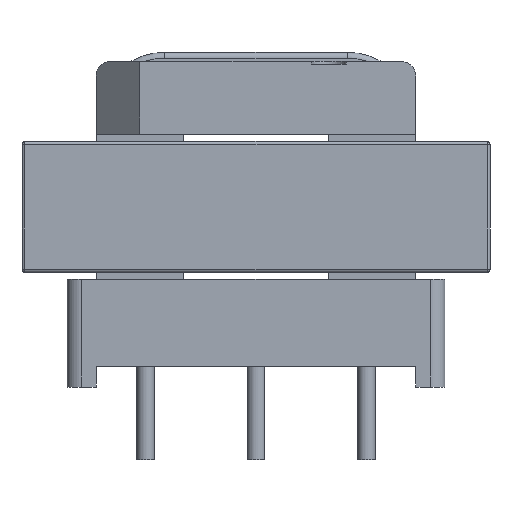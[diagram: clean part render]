
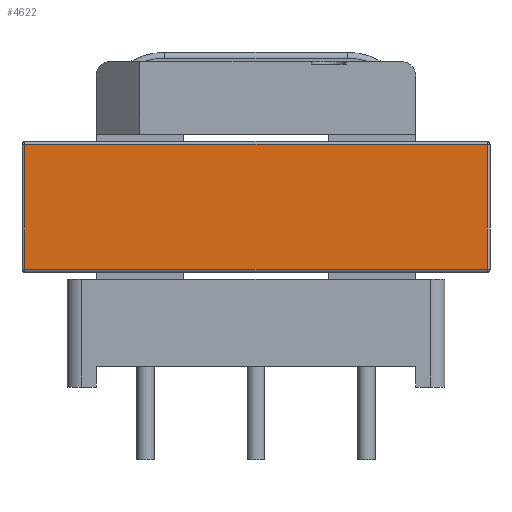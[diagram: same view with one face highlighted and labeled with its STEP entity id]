
A CAD part, front view. The second image highlights one B-rep face of the part: STEP entity #4622.
In plain terms, the highlighted planar face has unit normal (0, -1, 0).
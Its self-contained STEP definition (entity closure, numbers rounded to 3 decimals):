
#4622 = ADVANCED_FACE('',(#4623),#4657,.F.);
#4623 = FACE_BOUND('',#4624,.T.);
#4624 = EDGE_LOOP('',(#4625,#4635,#4643,#4651));
#4625 = ORIENTED_EDGE('',*,*,#4626,.T.);
#4626 = EDGE_CURVE('',#4627,#4629,#4631,.T.);
#4627 = VERTEX_POINT('',#4628);
#4628 = CARTESIAN_POINT('',(-7.95,-8.05,2.15));
#4629 = VERTEX_POINT('',#4630);
#4630 = CARTESIAN_POINT('',(-7.95,-8.05,-2.15));
#4631 = LINE('',#4632,#4633);
#4632 = CARTESIAN_POINT('',(-7.95,-8.05,-2.25));
#4633 = VECTOR('',#4634,1.);
#4634 = DIRECTION('',(0.,0.,-1.));
#4635 = ORIENTED_EDGE('',*,*,#4636,.T.);
#4636 = EDGE_CURVE('',#4629,#4637,#4639,.T.);
#4637 = VERTEX_POINT('',#4638);
#4638 = CARTESIAN_POINT('',(7.95,-8.05,-2.15));
#4639 = LINE('',#4640,#4641);
#4640 = CARTESIAN_POINT('',(8.05,-8.05,-2.15));
#4641 = VECTOR('',#4642,1.);
#4642 = DIRECTION('',(1.,0.,0.));
#4643 = ORIENTED_EDGE('',*,*,#4644,.T.);
#4644 = EDGE_CURVE('',#4637,#4645,#4647,.T.);
#4645 = VERTEX_POINT('',#4646);
#4646 = CARTESIAN_POINT('',(7.95,-8.05,2.15));
#4647 = LINE('',#4648,#4649);
#4648 = CARTESIAN_POINT('',(7.95,-8.05,2.25));
#4649 = VECTOR('',#4650,1.);
#4650 = DIRECTION('',(-0.,0.,1.));
#4651 = ORIENTED_EDGE('',*,*,#4652,.T.);
#4652 = EDGE_CURVE('',#4645,#4627,#4653,.T.);
#4653 = LINE('',#4654,#4655);
#4654 = CARTESIAN_POINT('',(0.,-8.05,2.15));
#4655 = VECTOR('',#4656,1.);
#4656 = DIRECTION('',(-1.,0.,-0.));
#4657 = PLANE('',#4658);
#4658 = AXIS2_PLACEMENT_3D('',#4659,#4660,#4661);
#4659 = CARTESIAN_POINT('',(0.,-8.05,-2.25));
#4660 = DIRECTION('',(0.,1.,0.));
#4661 = DIRECTION('',(1.,0.,0.));
